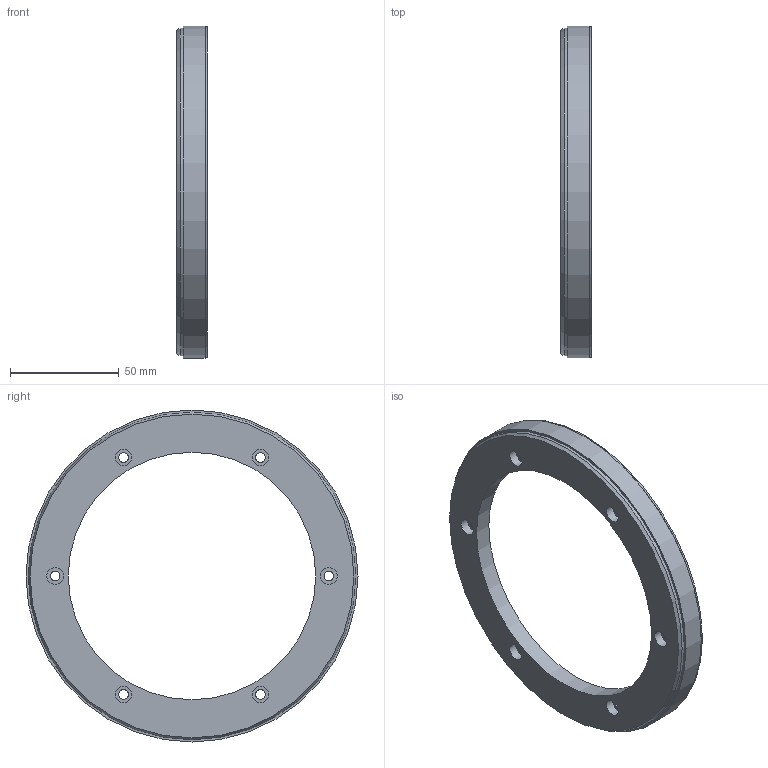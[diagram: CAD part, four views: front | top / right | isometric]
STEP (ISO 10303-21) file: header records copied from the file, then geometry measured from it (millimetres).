
FILE_DESCRIPTION((''),'2;1');
FILE_NAME('C:\Dokumente und Einstellungen\Waneck\Eigene Dateien\Waneck\Zeichnungen\Betz\PMIR5-50-96-O_M-133-AB.stp','2010-05-19T14:02:54',('waneck'),(''),'Autodesk Inventor 2008','Autodesk Inventor 2008','');
FILE_SCHEMA(('AUTOMOTIVE_DESIGN { 1 0 10303 214 1 1 1 1 }'));
Length unit declared in the file: millimetre
Products named in the file (1): Bauteil1
Bounding box: 14 x 152.88 x 152.88 mm (x, y, z)
Volume: 88538 mm3; surface area: 28800.4 mm2
Topology: 1 solids, 1 shells, 29 faces, 54 edges, 36 vertices
Faces by surface type: bspline 18, cylinder 5, plane 5, cone 1
Full cylindrical faces by diameter (mm): 114 x1, 133 x1, 150.8 x1, 152.2 x1, 152.88 x1
Entity records: 854 total; most frequent: CARTESIAN_POINT 322, DIRECTION 94, ORIENTED_EDGE 70, EDGE_LOOP 70, AXIS2_PLACEMENT_3D 47, FACE_BOUND 41, VERTEX_POINT 35, CIRCLE 35
